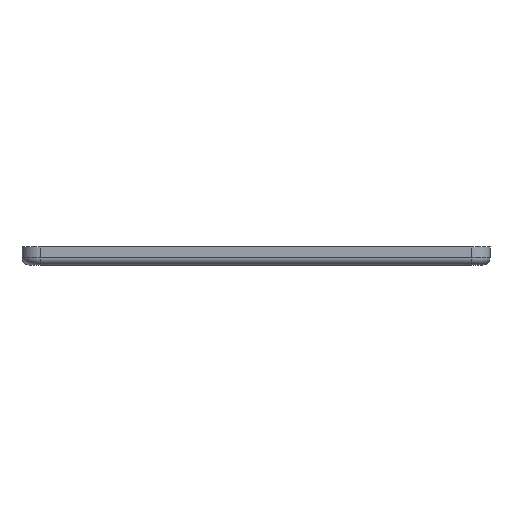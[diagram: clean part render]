
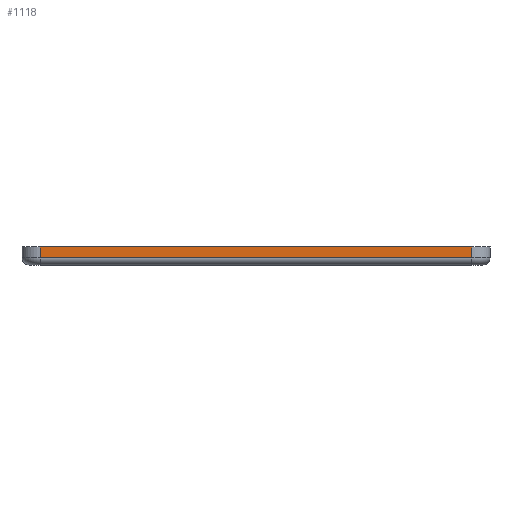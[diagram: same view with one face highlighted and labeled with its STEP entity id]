
A CAD part, front view. The second image highlights one B-rep face of the part: STEP entity #1118.
In plain terms, the highlighted planar face has unit normal (0, -1, 0).
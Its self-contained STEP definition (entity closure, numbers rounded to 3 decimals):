
#2 = CARTESIAN_POINT ( 'NONE',  ( 5., -100., 5. ) ) ;
#19 = DIRECTION ( 'NONE',  ( 0., 0., -1. ) ) ;
#114 = EDGE_CURVE ( 'NONE', #895, #996, #218, .T. ) ;
#125 = EDGE_CURVE ( 'NONE', #895, #825, #281, .T. ) ;
#129 = EDGE_CURVE ( 'NONE', #840, #825, #282, .T. ) ;
#132 = EDGE_CURVE ( 'NONE', #996, #840, #284, .T. ) ;
#218 = LINE ( 'NONE', #2, #256 ) ;
#256 = VECTOR ( 'NONE', #19, 1000. ) ;
#273 = VECTOR ( 'NONE', #1189, 1000. ) ;
#276 = VECTOR ( 'NONE', #1199, 1000. ) ;
#281 = LINE ( 'NONE', #1188, #273 ) ;
#282 = LINE ( 'NONE', #1190, #276 ) ;
#284 = LINE ( 'NONE', #1202, #309 ) ;
#309 = VECTOR ( 'NONE', #1278, 1000. ) ;
#477 = CARTESIAN_POINT ( 'NONE',  ( 0., -100., 5. ) ) ;
#481 = PLANE ( 'NONE',  #1634 ) ;
#484 = DIRECTION ( 'NONE',  ( 0., 1., 0. ) ) ;
#485 = DIRECTION ( 'NONE',  ( 0., 0., 1. ) ) ;
#714 = CARTESIAN_POINT ( 'NONE',  ( 124., -100., 5. ) ) ;
#719 = CARTESIAN_POINT ( 'NONE',  ( 124., -100., 2. ) ) ;
#730 = CARTESIAN_POINT ( 'NONE',  ( 5., -100., 5. ) ) ;
#770 = CARTESIAN_POINT ( 'NONE',  ( 5., -100., 2. ) ) ;
#797 = ORIENTED_EDGE ( 'NONE', *, *, #125, .F. ) ;
#818 = ORIENTED_EDGE ( 'NONE', *, *, #114, .T. ) ;
#825 = VERTEX_POINT ( 'NONE', #714 ) ;
#840 = VERTEX_POINT ( 'NONE', #719 ) ;
#895 = VERTEX_POINT ( 'NONE', #730 ) ;
#996 = VERTEX_POINT ( 'NONE', #770 ) ;
#1000 = ORIENTED_EDGE ( 'NONE', *, *, #129, .T. ) ;
#1022 = EDGE_LOOP ( 'NONE', ( #818, #1033, #1000, #797 ) ) ;
#1033 = ORIENTED_EDGE ( 'NONE', *, *, #132, .T. ) ;
#1118 = ADVANCED_FACE ( 'NONE', ( #1517 ), #481, .F. ) ;
#1188 = CARTESIAN_POINT ( 'NONE',  ( 0., -100., 5. ) ) ;
#1189 = DIRECTION ( 'NONE',  ( 1., 0., 0. ) ) ;
#1190 = CARTESIAN_POINT ( 'NONE',  ( 124., -100., 5. ) ) ;
#1199 = DIRECTION ( 'NONE',  ( 0., 0., 1. ) ) ;
#1202 = CARTESIAN_POINT ( 'NONE',  ( 0., -100., 2. ) ) ;
#1278 = DIRECTION ( 'NONE',  ( 1., 0., 0. ) ) ;
#1517 = FACE_OUTER_BOUND ( 'NONE', #1022, .T. ) ;
#1634 = AXIS2_PLACEMENT_3D ( 'NONE', #477, #484, #485 ) ;
